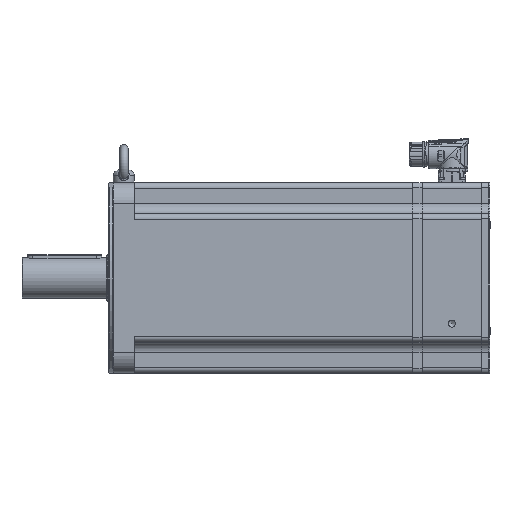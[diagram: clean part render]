
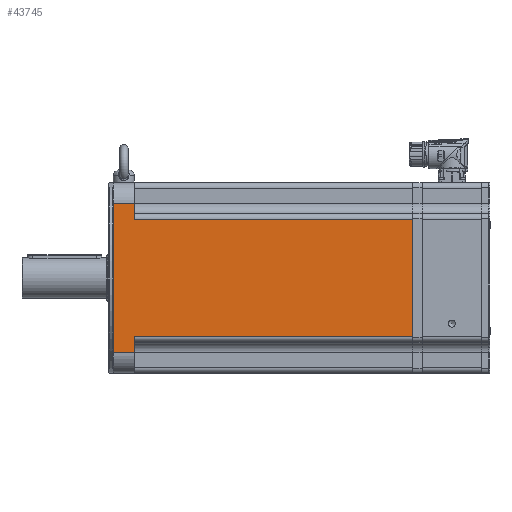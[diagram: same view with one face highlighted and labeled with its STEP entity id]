
A CAD part, left-side view. The second image highlights one B-rep face of the part: STEP entity #43745.
In plain terms, the highlighted planar face has unit normal (-1, 0, 0) as drawn and (1, 0, 0) by its records, which use the part's own axes.
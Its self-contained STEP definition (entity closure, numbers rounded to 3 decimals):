
#699=PLANE('',#46382);
#3644=LINE('',#62614,#5542);
#3658=LINE('',#62695,#5556);
#3665=LINE('',#62746,#5563);
#3673=LINE('',#62770,#5571);
#3674=LINE('',#62771,#5572);
#3675=LINE('',#62773,#5573);
#3676=LINE('',#62775,#5574);
#3677=LINE('',#62776,#5575);
#5542=VECTOR('',#51127,1000.);
#5556=VECTOR('',#51203,1000.);
#5563=VECTOR('',#51256,1000.);
#5571=VECTOR('',#51280,1000.);
#5572=VECTOR('',#51281,1000.);
#5573=VECTOR('',#51282,1000.);
#5574=VECTOR('',#51283,1000.);
#5575=VECTOR('',#51284,1000.);
#9797=ORIENTED_EDGE('',*,*,#17347,.F.);
#9798=ORIENTED_EDGE('',*,*,#17417,.T.);
#9799=ORIENTED_EDGE('',*,*,#17383,.F.);
#9800=ORIENTED_EDGE('',*,*,#17418,.T.);
#9801=ORIENTED_EDGE('',*,*,#17419,.F.);
#9802=ORIENTED_EDGE('',*,*,#17420,.T.);
#9803=ORIENTED_EDGE('',*,*,#17405,.F.);
#9804=ORIENTED_EDGE('',*,*,#17421,.T.);
#17347=EDGE_CURVE('',#21387,#21388,#3644,.T.);
#17383=EDGE_CURVE('',#21423,#21424,#3658,.T.);
#17405=EDGE_CURVE('',#21445,#21446,#3665,.T.);
#17417=EDGE_CURVE('',#21387,#21424,#3673,.F.);
#17418=EDGE_CURVE('',#21423,#21453,#3674,.T.);
#17419=EDGE_CURVE('',#21454,#21453,#3675,.T.);
#17420=EDGE_CURVE('',#21454,#21446,#3676,.F.);
#17421=EDGE_CURVE('',#21445,#21388,#3677,.T.);
#21387=VERTEX_POINT('',#62613);
#21388=VERTEX_POINT('',#62615);
#21423=VERTEX_POINT('',#62694);
#21424=VERTEX_POINT('',#62696);
#21445=VERTEX_POINT('',#62747);
#21446=VERTEX_POINT('',#62748);
#21453=VERTEX_POINT('',#62772);
#21454=VERTEX_POINT('',#62774);
#25349=EDGE_LOOP('',(#9797,#9798,#9799,#9800,#9801,#9802,#9803,#9804));
#27975=FACE_BOUND('',#25349,.T.);
#43745=ADVANCED_FACE('',(#27975),#699,.T.);
#46382=AXIS2_PLACEMENT_3D('',#62769,#51278,#51279);
#51127=DIRECTION('',(0.,0.,-1.));
#51203=DIRECTION('',(0.,0.,-1.));
#51256=DIRECTION('',(0.,0.,-1.));
#51278=DIRECTION('',(1.,0.,0.));
#51279=DIRECTION('',(0.,1.,0.));
#51280=DIRECTION('',(0.,1.,0.));
#51281=DIRECTION('',(0.,-1.,0.));
#51282=DIRECTION('',(0.,0.,1.));
#51283=DIRECTION('',(0.,-1.,0.));
#51284=DIRECTION('',(0.,1.,0.));
#62613=CARTESIAN_POINT('',(90.,283.8,55.2));
#62614=CARTESIAN_POINT('',(90.,283.8,-90.));
#62615=CARTESIAN_POINT('',(90.,283.8,-55.2));
#62694=CARTESIAN_POINT('',(90.,21.3,70.));
#62695=CARTESIAN_POINT('',(90.,21.3,-90.));
#62696=CARTESIAN_POINT('',(90.,21.3,55.2));
#62746=CARTESIAN_POINT('',(90.,21.3,-90.));
#62747=CARTESIAN_POINT('',(90.,21.3,-55.2));
#62748=CARTESIAN_POINT('',(90.,21.3,-70.));
#62769=CARTESIAN_POINT('',(90.,488.463,-90.));
#62770=CARTESIAN_POINT('',(90.,488.463,55.2));
#62771=CARTESIAN_POINT('',(90.,488.463,70.));
#62772=CARTESIAN_POINT('',(90.,1.3,70.));
#62773=CARTESIAN_POINT('',(90.,1.3,-90.));
#62774=CARTESIAN_POINT('',(90.,1.3,-70.));
#62775=CARTESIAN_POINT('',(90.,488.463,-70.));
#62776=CARTESIAN_POINT('',(90.,488.463,-55.2));
